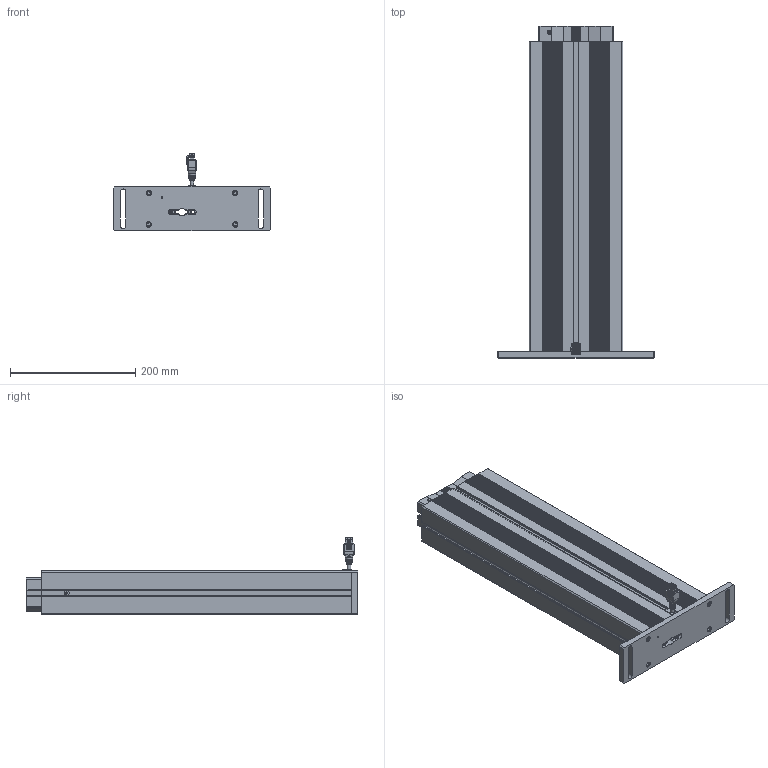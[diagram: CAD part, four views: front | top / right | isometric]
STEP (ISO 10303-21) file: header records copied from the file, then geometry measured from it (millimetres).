
FILE_DESCRIPTION(/* description */ ('Unknown'),/* implementation_level */ '2;1');
FILE_NAME(/* name */ '902.01023_00_eingefahren',/* time_stamp */ '2020-01-22T14:10:10+01:00',/* author */ ('Unknown'),/* organization */ ('Unknown'),/* preprocessor_version */ 'ST-DEVELOPER v16.7',/* originating_system */ 'DEX',/* authorisation */ $);
FILE_SCHEMA (('AUTOMOTIVE_DESIGN {1 0 10303 214 3 1 1}'));
Products named in the file (10): 902.01023; 126.00138; 119.00315; 119.00314; 142.00166; 124.00201_oa_0; Kabelzugentlastung; 142.00188; 142.00241; 110.00113_oa_1
Assembly tree (14 placements, depth 2):
  902.01023
    126.00138
    119.00315
    119.00314
    142.00166  x4
    124.00201_oa_0
    Kabelzugentlastung
    142.00188  x2
    142.00241  x2
    110.00113_oa_1
Bounding box: 250 x 530 x 123.9 mm (x, y, z)
Volume: 2186192.7 mm3; surface area: 1057631.8 mm2
Topology: 12 solids, 12 shells, 2534 faces, 7362 edges, 4893 vertices
Faces by surface type: plane 1460, cylinder 1035, torus 14, cone 10, bspline 9, sphere 6
Full cylindrical faces by diameter (mm): 1.5 x6, 2.459 x1, 2.7 x6, 3.242 x2, 3.4 x1, 4 x4, 5 x4, 5.5 x4, 6 x2, 7 x2, 8 x2, 8.5 x4, 8.7 x4, 30 x2
Entity records: 94040 total; most frequent: CARTESIAN_POINT 15310, ORIENTED_EDGE 14306, DIRECTION 13984, EDGE_CURVE 7153, LINE 4816, VECTOR 4816, VERTEX_POINT 4784, AXIS2_PLACEMENT_3D 4584
